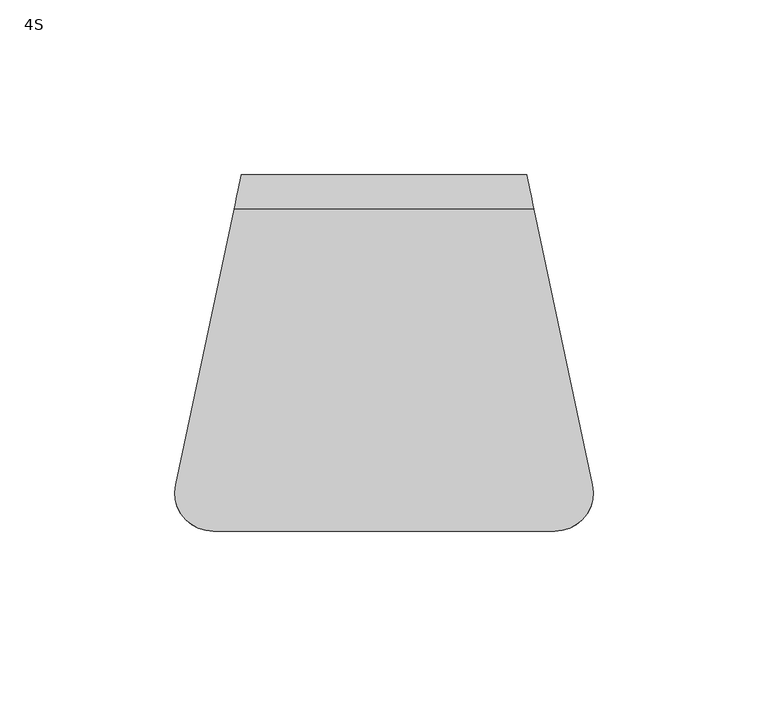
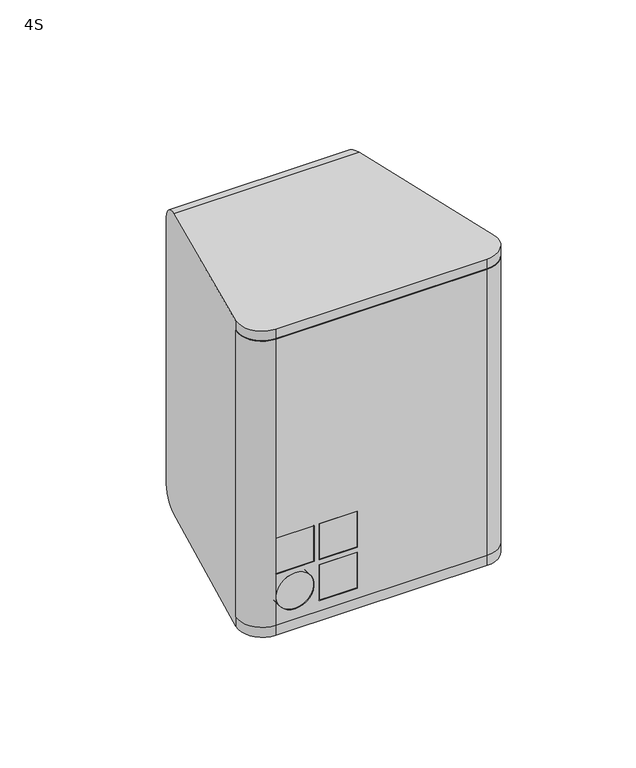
"""IFC4 building model written with IfcOpenShell, lengths in millimetres: proxy geometry, d&b xS-Series 4S Point Source : 4S."""

import ifcopenshell
import ifcopenshell.guid

model = None  # the IFC model being written
_history = None  # IfcOwnerHistory: only IFC2X3 demands one
_inside = {}  # id of a spatial element -> (the spatial element, [elements in it])
_under = {}  # id of a project, library or spatial element -> (it, [spatial elements below it])
_declared = {}  # id of a project -> (the project, [libraries it declares])
_typed = {}  # id of a type object -> (the type object, [elements of that type])
_made_of = {}  # id of a material, layer set ... -> (it, [elements and type objects made of it])


def new_model(schema):
    """Start an empty IFC model of exactly this schema.

    Asked for "IFC4X3", IfcOpenShell would pick the latest addendum, in which some entities
    have other attributes; the version numbers below select the first issue.
    IFC2X3 requires an IfcOwnerHistory on every rooted entity: one is made here for all.
    """
    global model, _history
    if schema == "IFC4X3":
        model = ifcopenshell.file(schema_version=(4, 3, 0, 0))
    else:
        model = ifcopenshell.file(schema=schema)
    _inside.clear()
    _under.clear()
    _declared.clear()
    _typed.clear()
    _made_of.clear()
    _history = None
    if model.schema == "IFC2X3":
        org = make("IfcOrganization", Name="unknown")
        user = make(
            "IfcPersonAndOrganization",
            ThePerson=make("IfcPerson", FamilyName="unknown"),
            TheOrganization=org,
        )
        app = make(
            "IfcApplication",
            ApplicationDeveloper=org,
            Version="unknown",
            ApplicationFullName="unknown",
            ApplicationIdentifier="unknown",
        )
        _history = make(
            "IfcOwnerHistory",
            OwningUser=user,
            OwningApplication=app,
            ChangeAction="ADDED",
            CreationDate=0,
        )
    return model


def make(cls, **values):
    """One entity of the class cls with the attributes given. An attribute that is None is left unset."""
    return model.create_entity(
        cls, **{name: value for name, value in values.items() if value is not None}
    )


def rooted(cls, **values):
    """An entity with a GlobalId (a new one), such as an element, a storey or a relation."""
    return make(cls, GlobalId=ifcopenshell.guid.new(), OwnerHistory=_history, **values)


def si_unit(unit_type, name, prefix=None):
    """IfcSIUnit, for example si_unit("LENGTHUNIT", "METRE", prefix="MILLI")."""
    return make("IfcSIUnit", UnitType=unit_type, Prefix=prefix, Name=name)


def assignment(units):
    """IfcUnitAssignment: the units of a project."""
    return None if units is None else make("IfcUnitAssignment", Units=units)


def point(xyz):
    """IfcCartesianPoint."""
    return None if xyz is None else make("IfcCartesianPoint", Coordinates=xyz)


def direction(xyz):
    """IfcDirection."""
    return None if xyz is None else make("IfcDirection", DirectionRatios=xyz)


def frame(location, z_axis=None, x_axis=None):
    """IfcAxis2Placement3D, a coordinate frame: its origin and axes. An axis left out is left unset."""
    return make(
        "IfcAxis2Placement3D",
        Location=point(location),
        Axis=direction(z_axis),
        RefDirection=direction(x_axis),
    )


def frame_2d(location, x_axis=None):
    """IfcAxis2Placement2D, a coordinate frame in the plane: its origin and x axis."""
    return make(
        "IfcAxis2Placement2D", Location=point(location), RefDirection=direction(x_axis)
    )


def origin():
    """The frame at (0, 0, 0) with its axes left unset."""
    return frame((0.0, 0.0, 0.0))


def place(relative_to, where):
    """IfcLocalPlacement: puts the frame where relative to a parent placement (None: the world)."""
    return make(
        "IfcLocalPlacement", PlacementRelTo=relative_to, RelativePlacement=where
    )


def context(
    kind, dimensions, precision=None, world=None, true_north=None, identifier=None
):
    """IfcGeometricRepresentationContext, for example the 3D "Model" context."""
    return make(
        "IfcGeometricRepresentationContext",
        ContextIdentifier=identifier,
        ContextType=kind,
        CoordinateSpaceDimension=dimensions,
        Precision=precision,
        WorldCoordinateSystem=world,
        TrueNorth=true_north,
    )


def project(units=None, contexts=None):
    """IfcProject with its units and contexts."""
    return rooted(
        "IfcProject",
        Name="project",
        RepresentationContexts=contexts,
        UnitsInContext=assignment(units),
    )


def spatial(cls, under=None, at=None, **own):
    """A site, building, storey or space (cls), placed at a placement, below another one or the project."""
    s = rooted(cls, ObjectPlacement=at, **own)
    if under is not None:
        _under.setdefault(under.id(), (under, []))[1].append(s)
    return s


def polyline(points):
    """IfcPolyline through the points."""
    return make("IfcPolyline", Points=[point(p) for p in points])


def circle_curve(where, radius):
    """IfcCircle in the frame where."""
    return make("IfcCircle", Position=where, Radius=radius)


def ellipse_curve(where, semi_axis1, semi_axis2):
    """IfcEllipse in the frame where."""
    return make(
        "IfcEllipse", Position=where, SemiAxis1=semi_axis1, SemiAxis2=semi_axis2
    )


def trimmed(basis, trim1, trim2, sense, master):
    """IfcTrimmedCurve: the piece of a basis curve between two trims."""
    return make(
        "IfcTrimmedCurve",
        BasisCurve=basis,
        Trim1=trim1,
        Trim2=trim2,
        SenseAgreement=sense,
        MasterRepresentation=master,
    )


def segment(curve, same_sense, transition):
    """IfcCompositeCurveSegment."""
    return make(
        "IfcCompositeCurveSegment",
        Transition=transition,
        SameSense=same_sense,
        ParentCurve=curve,
    )


def composite_curve(segments, self_intersect=None):
    """IfcCompositeCurve: segments joined end to end."""
    return make("IfcCompositeCurve", Segments=segments, SelfIntersect=self_intersect)


def outline(outer, holes=None, kind="AREA"):
    """IfcArbitraryClosedProfileDef: a profile drawn as a closed curve; with holes, ...WithVoids."""
    if holes is None:
        return make("IfcArbitraryClosedProfileDef", ProfileType=kind, OuterCurve=outer)
    return make(
        "IfcArbitraryProfileDefWithVoids",
        ProfileType=kind,
        OuterCurve=outer,
        InnerCurves=holes,
    )


def extrude(swept, where, along, depth):
    """IfcExtrudedAreaSolid: the profile swept, set in the frame where, extruded along a direction by depth."""
    return make(
        "IfcExtrudedAreaSolid",
        SweptArea=swept,
        Position=where,
        ExtrudedDirection=direction(along),
        Depth=depth,
    )


def shape(context_of_items, identifier, shape_type, items):
    """IfcShapeRepresentation: the items that make up one representation, for example the "Body"."""
    return make(
        "IfcShapeRepresentation",
        ContextOfItems=context_of_items,
        RepresentationIdentifier=identifier,
        RepresentationType=shape_type,
        Items=items,
    )


def source(mapping_origin, context_of_items, identifier, shape_type, items):
    """IfcRepresentationMap: a shape defined once, which mapped items show again and again."""
    return make(
        "IfcRepresentationMap",
        MappingOrigin=mapping_origin,
        MappedRepresentation=shape(context_of_items, identifier, shape_type, items),
    )


def transform(
    local_origin,
    x_axis=None,
    y_axis=None,
    z_axis=None,
    scale=None,
    scale2=None,
    scale3=None,
    uniform=True,
):
    """IfcCartesianTransformationOperator3D, or its non-uniform kind. x_axis, y_axis, z_axis: its Axis1, 2, 3."""
    if uniform:
        return make(
            "IfcCartesianTransformationOperator3D",
            Axis1=direction(x_axis),
            Axis2=direction(y_axis),
            LocalOrigin=point(local_origin),
            Scale=scale,
            Axis3=direction(z_axis),
        )
    return make(
        "IfcCartesianTransformationOperator3DnonUniform",
        Axis1=direction(x_axis),
        Axis2=direction(y_axis),
        LocalOrigin=point(local_origin),
        Scale=scale,
        Axis3=direction(z_axis),
        Scale2=scale2,
        Scale3=scale3,
    )


def mapped(mapping_source, mapping_target):
    """IfcMappedItem: shows the shape of a source again, moved by a transform."""
    return make(
        "IfcMappedItem", MappingSource=mapping_source, MappingTarget=mapping_target
    )


def made_of(thing, what):
    """Note that an element or type object is made of a material, layer set ...; save() writes the relation."""
    if what is not None:
        _made_of.setdefault(what.id(), (what, []))[1].append(thing)
    return thing


def element(
    cls,
    number,
    at=None,
    inside=None,
    cuts=None,
    type_object=None,
    material=None,
    context=None,
    identifier="Body",
    shape_type=None,
    held_by="IfcProductDefinitionShape",
    body=None,
    shapes=None,
    **own,
):
    """One element of the class cls, such as IfcWall. Its Tag is "e" and its number.

    at: its placement. inside: the storey or other place that contains it. cuts: it is an
    opening in that element (IfcRelVoidsElement). A single representation is given by context,
    identifier, shape_type and body (its items); several are given by shapes. held_by: the class
    of the entity that holds the representations. save() writes the other relations.
    """
    e = rooted(cls, Tag="e%d" % number, ObjectPlacement=at, **own)
    if body is not None:
        shapes = [shape(context, identifier, shape_type, body)]
    if shapes is not None:
        e.Representation = make(held_by, Representations=shapes)
    if inside is not None:
        _inside.setdefault(inside.id(), (inside, []))[1].append(e)
    if cuts is not None:
        rooted(
            "IfcRelVoidsElement", RelatingBuildingElement=cuts, RelatedOpeningElement=e
        )
    if type_object is not None:
        _typed.setdefault(type_object.id(), (type_object, []))[1].append(e)
    return made_of(e, material)


def aggregate(whole, parts):
    """IfcRelAggregates: a whole, such as a stair, and the parts it consists of."""
    return rooted("IfcRelAggregates", RelatingObject=whole, RelatedObjects=parts)


def save(model, path):
    """Write the relations noted so far, then the file.

    IfcRelAggregates (storeys below a building ...), IfcRelContainedInSpatialStructure (elements
    in a storey), IfcRelDefinesByType, IfcRelAssociatesMaterial and IfcRelDeclares: one each for
    every whole, place, type object, material and project.
    """
    for whole, parts in _under.values():
        aggregate(whole, parts)
    for where, things in _inside.values():
        rooted(
            "IfcRelContainedInSpatialStructure",
            RelatedElements=things,
            RelatingStructure=where,
        )
    for kind, things in _typed.values():
        rooted("IfcRelDefinesByType", RelatedObjects=things, RelatingType=kind)
    for what, things in _made_of.values():
        rooted("IfcRelAssociatesMaterial", RelatedObjects=things, RelatingMaterial=what)
    for by, libraries in _declared.values():
        rooted("IfcRelDeclares", RelatingContext=by, RelatedDefinitions=libraries)
    model.write(path)


def plane_surface(at):
    """IfcPlane: the flat surface through the origin of the frame at, square to its z axis."""
    return make("IfcPlane", Position=at)


def cylinder_surface(at, radius):
    """IfcCylindricalSurface: all points at the distance radius from the z axis of the frame at."""
    return make("IfcCylindricalSurface", Position=at, Radius=radius)


def revolved_surface(curve, axis_point, axis_direction):
    """IfcSurfaceOfRevolution: the curve turned about the line through axis_point along axis_direction."""
    return make(
        "IfcSurfaceOfRevolution",
        SweptCurve=make("IfcArbitraryOpenProfileDef", ProfileType="CURVE", Curve=curve),
        AxisPosition=make("IfcAxis1Placement", Location=point(axis_point), Axis=direction(axis_direction)),
    )


def advanced_brep(points, edges, surfaces, faces):
    """IfcAdvancedBrep: a solid bounded by faces that lie on surfaces and meet in shared edges.

    An edge is (start, end): straight between two places in points (the first is 0);
    or (start, end, curve); or (start, end, curve, False) where it runs against its curve.
    A face is (place in surfaces, loops), or (place, loops, False) where it looks against
    its surface's normal. A loop lists edges by number (the first is 1), with a minus sign
    where the edge is run from its end to its start. The first loop is the outer one.
    """
    corners = [point(p) for p in points]
    vertices = [make("IfcVertexPoint", VertexGeometry=c) for c in corners]
    made = []
    for start, end, *more in edges:
        made.append(
            make(
                "IfcEdgeCurve",
                EdgeStart=vertices[start],
                EdgeEnd=vertices[end],
                EdgeGeometry=more[0] if more else make("IfcPolyline", Points=[corners[start], corners[end]]),
                SameSense=more[1] if len(more) > 1 else True,
            )
        )
    hull = []
    for where, loops, *sense in faces:
        bounds = []
        for j, loop in enumerate(loops):
            ring = [make("IfcOrientedEdge", EdgeElement=made[abs(k) - 1], Orientation=k > 0) for k in loop]
            bounds.append(
                make(
                    "IfcFaceOuterBound" if j == 0 else "IfcFaceBound",
                    Bound=make("IfcEdgeLoop", EdgeList=ring),
                    Orientation=True,
                )
            )
        hull.append(make("IfcAdvancedFace", Bounds=bounds, FaceSurface=surfaces[where], SameSense=sense[0] if sense else True))
    return make("IfcAdvancedBrep", Outer=make("IfcClosedShell", CfsFaces=hull))


def proxy_4s_3c42d015(model_context):
    return source(origin(), model_context, "Body", "SolidModel", [
        extrude(outline(composite_curve([segment(polyline([(-54.4631575, -37.7129714), (54.4631575, -37.7129714)]), True, "CONTINUOUS"), segment(trimmed(circle_curve(frame_2d((48.9161313, -40.0)), 6.0), [point((54.4631575, -37.7129714))], [point((48.9161313, -46.0))], False, "CARTESIAN"), True, "CONTINUOUS"), segment(polyline([(48.9161313, -46.0), (-48.9161313, -46.0)]), True, "CONTINUOUS"), segment(trimmed(circle_curve(frame_2d((-48.9161313, -40.0)), 6.0), [point((-48.9161313, -46.0))], [point((-54.4631575, -37.7129714))], False, "CARTESIAN"), True, "CONTINUOUS")], self_intersect=False)), frame((0.0, 0.0, -70.0), z_axis=(0.0, 0.0, 1.0), x_axis=(1.0, 0.0, 0.0)), (0.0, 0.0, 1.0), 140.0),
        advanced_brep(
        [(-31.1772445, -51.0, -27.5), (-31.1772445, -46.0, -27.5), (-31.1772445, -46.0, -45.0), (-31.1772445, -51.0, -45.0), (-48.6772445, -46.0, -45.0), (-48.6772445, -51.0, -45.0), (-48.6772445, -46.0, -27.5), (-48.6772445, -51.0, -27.5), (-11.1772445, -51.0, -27.5), (-11.1772445, -46.0, -27.5), (-11.1772445, -46.0, -45.0), (-11.1772445, -51.0, -45.0), (-28.6772445, -46.0, -45.0), (-28.6772445, -51.0, -45.0), (-28.6772445, -46.0, -27.5), (-28.6772445, -51.0, -27.5), (-11.1772445, -51.0, -47.5), (-11.1772445, -46.0, -47.5), (-11.1772445, -46.0, -65.0), (-11.1772445, -51.0, -65.0), (-28.6772445, -46.0, -65.0), (-28.6772445, -51.0, -65.0), (-28.6772445, -46.0, -47.5), (-28.6772445, -51.0, -47.5), (-39.9272445, -51.0, -65.0), (-39.9272445, -46.0, -65.0), (-39.9272445, -46.0, -47.5), (-39.9272445, -51.0, -47.5), (48.9161313, -51.0, 70.0), (59.6757549, -37.7129714, 70.0), (54.4631575, -37.7129714, 70.0), (48.9161313, -46.0, 70.0), (-48.9161313, -46.0, 70.0), (-54.4631575, -37.7129714, 70.0), (-59.6757549, -37.7129714, 70.0), (-48.9161313, -51.0, 70.0), (48.9161313, -51.0, -70.0), (-48.9161313, -51.0, -70.0), (-59.6757549, -37.7129714, -70.0), (-54.4631575, -37.7129714, -70.0), (-48.9161313, -46.0, -70.0), (48.9161313, -46.0, -70.0), (54.4631575, -37.7129714, -70.0), (59.6757549, -37.7129714, -70.0)],
        [
            (0, 1),
            (1, 2),
            (2, 3),
            (3, 0),
            (2, 4),
            (4, 5),
            (5, 3),
            (4, 6),
            (6, 7),
            (7, 5),
            (0, 7),
            (6, 1),
            (8, 9),
            (9, 10),
            (10, 11),
            (11, 8),
            (10, 12),
            (12, 13),
            (13, 11),
            (12, 14),
            (14, 15),
            (15, 13),
            (8, 15),
            (14, 9),
            (16, 17),
            (17, 18),
            (18, 19),
            (19, 16),
            (18, 20),
            (20, 21),
            (21, 19),
            (20, 22),
            (22, 23),
            (23, 21),
            (16, 23),
            (22, 17),
            (24, 25),
            (25, 26, circle_curve(frame((-39.9272445, -46.0, -56.25), z_axis=(0.0, 1.0, 0.0), x_axis=(0.0, 0.0, 1.0)), 8.75)),
            (26, 27),
            (27, 24, circle_curve(frame((-39.9272445, -51.0, -56.25), z_axis=(0.0, -1.0, 0.0), x_axis=(0.0, 0.0, 1.0)), 8.75)),
            (24, 27, circle_curve(frame((-39.9272445, -51.0, -56.25), z_axis=(0.0, -1.0, 0.0), x_axis=(0.0, 0.0, 1.0)), 8.75)),
            (26, 25, circle_curve(frame((-39.9272445, -46.0, -56.25), z_axis=(0.0, 1.0, 0.0), x_axis=(0.0, 0.0, 1.0)), 8.75)),
            (28, 29, circle_curve(frame((48.9161313, -40.0, 70.0), z_axis=(0.0, 0.0, 1.0), x_axis=(0.0, -1.0, 0.0)), 11.0)),
            (29, 30),
            (30, 31, circle_curve(frame((48.9161313, -40.0, 70.0), z_axis=(0.0, 0.0, -1.0), x_axis=(0.0, -1.0, 0.0)), 6.0)),
            (31, 32),
            (32, 33, circle_curve(frame((-48.9161313, -40.0, 70.0), z_axis=(0.0, 0.0, -1.0), x_axis=(0.0, -1.0, 0.0)), 6.0)),
            (33, 34),
            (34, 35, circle_curve(frame((-48.9161313, -40.0, 70.0), z_axis=(0.0, 0.0, 1.0), x_axis=(0.0, -1.0, 0.0)), 11.0)),
            (35, 28),
            (36, 37),
            (37, 38, circle_curve(frame((-48.9161313, -40.0, -70.0), z_axis=(0.0, 0.0, -1.0), x_axis=(0.0, -1.0, 0.0)), 11.0)),
            (38, 39),
            (39, 40, circle_curve(frame((-48.9161313, -40.0, -70.0), z_axis=(0.0, 0.0, 1.0), x_axis=(0.0, -1.0, 0.0)), 6.0)),
            (40, 41),
            (41, 42, circle_curve(frame((48.9161313, -40.0, -70.0), z_axis=(0.0, 0.0, 1.0), x_axis=(0.0, -1.0, 0.0)), 6.0)),
            (42, 43),
            (43, 36, circle_curve(frame((48.9161313, -40.0, -70.0), z_axis=(0.0, 0.0, -1.0), x_axis=(0.0, -1.0, 0.0)), 11.0)),
            (28, 36),
            (43, 29),
            (42, 30),
            (41, 31),
            (40, 32),
            (39, 33),
            (38, 34),
            (37, 35),
        ],
        [
            plane_surface(frame((-31.1772445, -51.0, -45.0), z_axis=(-1.0, 0.0, 0.0), x_axis=(0.0, 1.0, 0.0))),
            plane_surface(frame((-48.6772445, -51.0, -45.0), z_axis=(0.0, 0.0, 1.0), x_axis=(0.0, 1.0, 0.0))),
            plane_surface(frame((-48.6772445, -51.0, -27.5), z_axis=(1.0, 0.0, 0.0), x_axis=(0.0, 1.0, 0.0))),
            plane_surface(frame((-31.1772445, -51.0, -27.5), z_axis=(0.0, 0.0, -1.0), x_axis=(0.0, 1.0, 0.0))),
            plane_surface(frame((-11.1772445, -51.0, -45.0), z_axis=(-1.0, 0.0, 0.0), x_axis=(0.0, 1.0, 0.0))),
            plane_surface(frame((-28.6772445, -51.0, -45.0), z_axis=(0.0, 0.0, 1.0), x_axis=(0.0, 1.0, 0.0))),
            plane_surface(frame((-28.6772445, -51.0, -27.5), z_axis=(1.0, 0.0, 0.0), x_axis=(0.0, 1.0, 0.0))),
            plane_surface(frame((-11.1772445, -51.0, -27.5), z_axis=(0.0, 0.0, -1.0), x_axis=(0.0, 1.0, 0.0))),
            plane_surface(frame((-11.1772445, -51.0, -65.0), z_axis=(-1.0, 0.0, 0.0), x_axis=(0.0, 1.0, 0.0))),
            plane_surface(frame((-28.6772445, -51.0, -65.0), z_axis=(0.0, 0.0, 1.0), x_axis=(0.0, 1.0, 0.0))),
            plane_surface(frame((-28.6772445, -51.0, -47.5), z_axis=(1.0, 0.0, 0.0), x_axis=(0.0, 1.0, 0.0))),
            plane_surface(frame((-11.1772445, -51.0, -47.5), z_axis=(0.0, 0.0, -1.0), x_axis=(0.0, 1.0, 0.0))),
            revolved_surface(polyline([(-39.9272445, -51.0, -47.5), (-39.9272445, -46.0, -47.5)]), (-39.9272445, -142.2477083, -56.25), (0.0, -1.0, 0.0)),
            plane_surface(frame((48.9161313, -51.0, 70.0), z_axis=(0.0, 0.0, 1.0), x_axis=(1.0, 0.0, 0.0))),
            plane_surface(frame((48.9161313, -51.0, -70.0), z_axis=(0.0, 0.0, -1.0), x_axis=(-1.0, 0.0, 0.0))),
            cylinder_surface(frame((48.9161313, -40.0, -70.0), z_axis=(0.0, 0.0, 1.0), x_axis=(0.0, -1.0, 0.0)), 11.0),
            plane_surface(frame((59.6757549, -37.7129714, 70.0), z_axis=(0.0, 1.0, 0.0), x_axis=(0.0, 0.0, -1.0))),
            revolved_surface(polyline([(48.9161313, -46.0, -70.0), (48.9161313, -46.0, 70.0)]), (48.9161313, -40.0, -70.0), (0.0, 0.0, -1.0)),
            plane_surface(frame((48.9161313, -46.0, 70.0), z_axis=(0.0, 1.0, 0.0), x_axis=(0.0, 0.0, -1.0))),
            revolved_surface(polyline([(-48.9161313, -46.0, -70.0), (-48.9161313, -46.0, 70.0)]), (-48.9161313, -40.0, -70.0), (0.0, 0.0, -1.0)),
            plane_surface(frame((-54.4631575, -37.7129714, 70.0), z_axis=(0.0, 1.0, 0.0), x_axis=(0.0, 0.0, -1.0))),
            cylinder_surface(frame((-48.9161313, -40.0, -70.0), z_axis=(0.0, 0.0, 1.0), x_axis=(0.0, -1.0, 0.0)), 11.0),
            plane_surface(frame((-48.9161313, -51.0, 70.0), z_axis=(0.0, -1.0, 0.0), x_axis=(0.0, 0.0, -1.0))),
        ],
        [
            (0, [[1, 2, 3, 4]]),
            (1, [[-3, 5, 6, 7]]),
            (2, [[-6, 8, 9, 10]]),
            (3, [[-1, 11, -9, 12]]),
            (4, [[13, 14, 15, 16]]),
            (5, [[-15, 17, 18, 19]]),
            (6, [[-18, 20, 21, 22]]),
            (7, [[-13, 23, -21, 24]]),
            (8, [[25, 26, 27, 28]]),
            (9, [[-27, 29, 30, 31]]),
            (10, [[-30, 32, 33, 34]]),
            (11, [[-25, 35, -33, 36]]),
            (12, [[37, 38, 39, 40]]),
            (12, [[-37, 41, -39, 42]]),
            (13, [[43, 44, 45, 46, 47, 48, 49, 50]]),
            (14, [[51, 52, 53, 54, 55, 56, 57, 58]]),
            (15, [[-43, 59, -58, 60]]),
            (16, [[-44, -60, -57, 61]]),
            (17, [[-45, -61, -56, 62]]),
            (18, [[-46, -62, -55, 63], [-2, -12, -8, -5], [-14, -24, -20, -17], [-26, -36, -32, -29], [-38, -42]]),
            (19, [[-47, -63, -54, 64]]),
            (20, [[-48, -64, -53, 65]]),
            (21, [[-49, -65, -52, 66]]),
            (22, [[-50, -66, -51, -59], [-4, -7, -10, -11], [-16, -19, -22, -23], [-28, -31, -34, -35], [-40, -41]]),
        ],
    ),
        extrude(outline(polyline([(-31.1622558, -51.0), (-48.6622558, -51.0), (-48.6622558, -46.0), (-31.1622558, -46.0), (-31.1622558, -51.0)])), frame((0.0, 0.0, -45.0), z_axis=(0.0, 0.0, 1.0), x_axis=(1.0, 0.0, 0.0)), (0.0, 0.0, 1.0), 17.5),
        extrude(outline(polyline([(-11.1622558, -51.0), (-28.6622558, -51.0), (-28.6622558, -46.0), (-11.1622558, -46.0), (-11.1622558, -51.0)])), frame((0.0, 0.0, -45.0), z_axis=(0.0, 0.0, 1.0), x_axis=(1.0, 0.0, 0.0)), (0.0, 0.0, 1.0), 17.5),
        extrude(outline(polyline([(-11.1622558, -51.0), (-28.6622558, -51.0), (-28.6622558, -46.0), (-11.1622558, -46.0), (-11.1622558, -51.0)])), frame((0.0, 0.0, -65.0), z_axis=(0.0, 0.0, 1.0), x_axis=(1.0, 0.0, 0.0)), (0.0, 0.0, 1.0), 17.5),
        extrude(outline(composite_curve([segment(trimmed(circle_curve(frame_2d((-56.25, -39.9122558)), 8.75), [point((-65.0, -39.9122558))], [point((-47.5, -39.9122558))], False, "CARTESIAN"), True, "CONTINUOUS"), segment(trimmed(circle_curve(frame_2d((-56.25, -39.9122558)), 8.75), [point((-47.5, -39.9122558))], [point((-65.0, -39.9122558))], False, "CARTESIAN"), True, "CONTINUOUS")], self_intersect=False)), frame((0.0, -51.0, 0.0), z_axis=(0.0, 1.0, 0.0), x_axis=(0.0, 0.0, 1.0)), (0.0, 0.0, 1.0), 5.0),
        advanced_brep(
        [(-23.0610927, 48.0, 57.4298657), (-18.0610927, 48.0, 62.4298657), (18.0610927, 48.0, 62.4298657), (23.0610927, 48.0, 57.4298657), (23.0610927, 48.0, -29.0610927), (18.0610927, 48.0, -34.0610927), (-18.0610927, 48.0, -34.0610927), (-23.0610927, 48.0, -29.0610927), (-16.4913486, 48.0, -32.4913486), (16.4913486, 48.0, -32.4913486), (21.4913486, 48.0, -27.4913486), (21.4913486, 48.0, -0.0804502), (-21.4913486, 48.0, -0.0804502), (-21.4913486, 48.0, -27.4913486), (-23.0610927, 51.0, 57.4298657), (-18.0610927, 51.0, 62.4298657), (18.0610927, 51.0, 62.4298657), (23.0610927, 51.0, 57.4298657), (23.0610927, 51.0, -29.0610927), (18.0610927, 51.0, -34.0610927), (-18.0610927, 51.0, -34.0610927), (-23.0610927, 51.0, -29.0610927), (16.4913486, 32.0, -32.4913486), (-16.4913486, 32.0, -32.4913486), (-21.4913486, 32.0, -27.4913486), (-21.4913486, 32.0, -0.0804502), (21.4913486, 32.0, -0.0804502), (21.4913486, 32.0, -27.4913486), (48.9161313, -51.0, 70.0), (-48.9161313, -51.0, 70.0), (-59.6757549, -37.7129714, 70.0), (59.6757549, -37.7129714, 70.0), (48.9161313, -51.0, -70.0), (59.6757549, -37.7129714, -70.0), (-59.6757549, -37.7129714, -70.0), (-48.9161313, -51.0, -70.0), (59.6757549, -37.7129714, -74.7177462), (42.9086571, 41.1700217, -73.3763698), (40.8192307, 51.0, -63.3778153), (40.8192307, 51.0, 63.3841074), (42.9086571, 41.1700217, 73.3826619), (59.6757549, -37.7129714, 74.7240383), (-42.9086571, 41.1700217, -73.3763698), (-59.6757549, -37.7129714, -74.7177462), (-59.6757549, -37.7129714, 74.7240383), (-42.9086571, 41.1700217, 73.3826619), (-40.8192307, 51.0, 63.3841074), (-40.8192307, 51.0, -63.3778153), (48.9161313, -51.0, 74.9499793), (-48.9161313, -51.0, 74.9499793), (48.9161313, -51.0, -74.9436872), (-48.9161313, -51.0, -74.9436872)],
        [
            (0, 1, circle_curve(frame((-18.0610927, 48.0, 57.4298657), z_axis=(0.0, 1.0, 0.0), x_axis=(-1.0, 0.0, 0.0)), 5.0)),
            (1, 2),
            (2, 3, circle_curve(frame((18.0610927, 48.0, 57.4298657), z_axis=(0.0, 1.0, 0.0), x_axis=(-1.0, 0.0, 0.0)), 5.0)),
            (3, 4),
            (4, 5, circle_curve(frame((18.0610927, 48.0, -29.0610927), z_axis=(0.0, 1.0, 0.0), x_axis=(-1.0, 0.0, 0.0)), 5.0)),
            (5, 6),
            (6, 7, circle_curve(frame((-18.0610927, 48.0, -29.0610927), z_axis=(0.0, 1.0, 0.0), x_axis=(-1.0, 0.0, 0.0)), 5.0)),
            (7, 0),
            (8, 9),
            (9, 10, circle_curve(frame((16.4913486, 48.0, -27.4913486), z_axis=(0.0, -1.0, 0.0), x_axis=(-1.0, 0.0, 0.0)), 5.0)),
            (10, 11),
            (11, 12),
            (12, 13),
            (13, 8, circle_curve(frame((-16.4913486, 48.0, -27.4913486), z_axis=(0.0, -1.0, 0.0), x_axis=(-1.0, 0.0, 0.0)), 5.0)),
            (0, 14),
            (14, 15, circle_curve(frame((-18.0610927, 51.0, 57.4298657), z_axis=(0.0, 1.0, 0.0), x_axis=(-1.0, 0.0, 0.0)), 5.0)),
            (15, 1),
            (15, 16),
            (16, 2),
            (16, 17, circle_curve(frame((18.0610927, 51.0, 57.4298657), z_axis=(0.0, 1.0, 0.0), x_axis=(-1.0, 0.0, 0.0)), 5.0)),
            (17, 3),
            (17, 18),
            (18, 4),
            (18, 19, circle_curve(frame((18.0610927, 51.0, -29.0610927), z_axis=(0.0, 1.0, 0.0), x_axis=(-1.0, 0.0, 0.0)), 5.0)),
            (19, 5),
            (19, 20),
            (20, 6),
            (20, 21, circle_curve(frame((-18.0610927, 51.0, -29.0610927), z_axis=(0.0, 1.0, 0.0), x_axis=(-1.0, 0.0, 0.0)), 5.0)),
            (21, 7),
            (21, 14),
            (22, 23),
            (23, 24, circle_curve(frame((-16.4913486, 32.0, -27.4913486), z_axis=(0.0, 1.0, 0.0), x_axis=(-1.0, 0.0, 0.0)), 5.0)),
            (24, 25),
            (25, 26),
            (26, 27),
            (27, 22, circle_curve(frame((16.4913486, 32.0, -27.4913486), z_axis=(0.0, 1.0, 0.0), x_axis=(-1.0, 0.0, 0.0)), 5.0)),
            (28, 29),
            (29, 30, circle_curve(frame((-48.9161313, -40.0, 70.0), z_axis=(0.0, 0.0, -1.0), x_axis=(0.0, -1.0, 0.0)), 11.0)),
            (30, 31),
            (31, 28, circle_curve(frame((48.9161313, -40.0, 70.0), z_axis=(0.0, 0.0, -1.0), x_axis=(0.0, -1.0, 0.0)), 11.0)),
            (32, 33, circle_curve(frame((48.9161313, -40.0, -70.0), z_axis=(0.0, 0.0, 1.0), x_axis=(0.0, -1.0, 0.0)), 11.0)),
            (33, 34),
            (34, 35, circle_curve(frame((-48.9161313, -40.0, -70.0), z_axis=(0.0, 0.0, 1.0), x_axis=(0.0, -1.0, 0.0)), 11.0)),
            (35, 32),
            (22, 9),
            (8, 23),
            (13, 24),
            (12, 25),
            (11, 26),
            (10, 27),
            (36, 37),
            (37, 38, ellipse_curve(frame((42.9447963, 41.0, -63.3778153), z_axis=(0.9781476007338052, 0.20791169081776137, 0.0), x_axis=(-0.2079116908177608, 0.9781476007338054, 0.0)), 10.2234059, 10.0)),
            (38, 39),
            (39, 40, ellipse_curve(frame((42.9447963, 41.0, 63.3841074), z_axis=(0.9781476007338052, 0.20791169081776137, 0.0), x_axis=(-0.2079116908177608, 0.9781476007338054, 0.0)), 10.2234059, 10.0)),
            (40, 41),
            (41, 31),
            (31, 33),
            (33, 36),
            (30, 34),
            (42, 43),
            (43, 34),
            (30, 44),
            (44, 45),
            (45, 46, ellipse_curve(frame((-42.9447963, 41.0, 63.3841074), z_axis=(-0.9781476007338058, 0.20791169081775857, 0.0), x_axis=(-0.20791169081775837, -0.9781476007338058, 0.0)), 10.2234059, 10.0)),
            (46, 47),
            (47, 42, ellipse_curve(frame((-42.9447963, 41.0, -63.3778153), z_axis=(-0.9781476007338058, 0.20791169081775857, 0.0), x_axis=(-0.20791169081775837, -0.9781476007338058, 0.0)), 10.2234059, 10.0)),
            (38, 47),
            (46, 39),
            (41, 48, ellipse_curve(frame((48.9161313, -40.0, 74.7629284), z_axis=(0.0, -0.017002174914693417, -0.9998554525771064), x_axis=(0.0, -0.9998554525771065, 0.017002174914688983)), 11.0015903, 11.0)),
            (48, 28),
            (29, 49),
            (49, 44, ellipse_curve(frame((-48.9161313, -40.0, 74.7629284), z_axis=(0.0, -0.017002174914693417, -0.9998554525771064), x_axis=(0.0, -0.9998554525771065, 0.017002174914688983)), 11.0015903, 11.0)),
            (48, 49),
            (32, 50),
            (50, 36, ellipse_curve(frame((48.9161313, -40.0, -74.7566362), z_axis=(0.0, -0.017002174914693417, 0.9998554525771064), x_axis=(0.0, 0.9998554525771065, 0.017002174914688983)), 11.0015903, 11.0)),
            (43, 51, ellipse_curve(frame((-48.9161313, -40.0, -74.7566362), z_axis=(0.0, -0.017002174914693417, 0.9998554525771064), x_axis=(0.0, 0.9998554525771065, 0.017002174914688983)), 11.0015903, 11.0)),
            (51, 35),
            (51, 50),
            (40, 45),
            (42, 37),
        ],
        [
            plane_surface(frame((-23.0610927, 48.0, 57.4298657), z_axis=(0.0, 1.0, 0.0), x_axis=(0.0, 0.0, -1.0))),
            revolved_surface(polyline([(-23.0610927, 51.0, 57.4298657), (-23.0610927, 48.0, 57.4298657)]), (-18.0610927, 48.0, 57.4298657), (0.0, 1.0, 0.0)),
            plane_surface(frame((-18.0610927, 51.0, 62.4298657), z_axis=(0.0, 0.0, -1.0), x_axis=(0.0, -1.0, 0.0))),
            revolved_surface(polyline([(13.0610927, 51.0, 57.4298657), (13.0610927, 48.0, 57.4298657)]), (18.0610927, 48.0, 57.4298657), (0.0, 1.0, 0.0)),
            plane_surface(frame((23.0610927, 51.0, 57.4298657), z_axis=(-1.0, 0.0, 0.0), x_axis=(0.0, -1.0, 0.0))),
            revolved_surface(polyline([(13.0610927, 51.0, -29.0610927), (13.0610927, 48.0, -29.0610927)]), (18.0610927, 48.0, -29.0610927), (0.0, 1.0, 0.0)),
            plane_surface(frame((18.0610927, 51.0, -34.0610927), z_axis=(0.0, 0.0, 1.0), x_axis=(0.0, -1.0, 0.0))),
            revolved_surface(polyline([(-23.0610927, 51.0, -29.0610927), (-23.0610927, 48.0, -29.0610927)]), (-18.0610927, 48.0, -29.0610927), (0.0, 1.0, 0.0)),
            plane_surface(frame((-23.0610927, 51.0, -29.0610927), z_axis=(1.0, 0.0, 0.0), x_axis=(0.0, -1.0, 0.0))),
            plane_surface(frame((-10.0, 32.0, -32.4913486), z_axis=(0.0, 1.0, 0.0), x_axis=(1.0, 0.0, 0.0))),
            plane_surface(frame((48.9161313, -51.0, 70.0), z_axis=(0.0, 0.0, -1.0), x_axis=(-1.0, 0.0, 0.0))),
            plane_surface(frame((48.9161313, -51.0, -70.0), z_axis=(0.0, 0.0, 1.0), x_axis=(1.0, 0.0, 0.0))),
            plane_surface(frame((16.4913486, 51.0, -32.4913486), z_axis=(0.0, 0.0, 1.0), x_axis=(0.0, -1.0, 0.0))),
            revolved_surface(polyline([(-21.4913486, 48.0, -27.4913486), (-21.4913486, 32.0, -27.4913486)]), (-16.4913486, 32.0, -27.4913486), (0.0, 1.0, 0.0)),
            plane_surface(frame((-21.4913486, 51.0, -27.4913486), z_axis=(1.0, 0.0, 0.0), x_axis=(0.0, -1.0, 0.0))),
            plane_surface(frame((-21.4913486, 51.0, -0.0804502), z_axis=(0.0, 0.0, -1.0), x_axis=(0.0, -1.0, 0.0))),
            plane_surface(frame((21.4913486, 51.0, -0.0804502), z_axis=(-1.0, 0.0, 0.0), x_axis=(0.0, -1.0, 0.0))),
            revolved_surface(polyline([(11.491348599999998, 48.0, -27.4913486), (11.491348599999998, 32.0, -27.4913486)]), (16.4913486, 32.0, -27.4913486), (0.0, 1.0, 0.0)),
            plane_surface(frame((40.8192307, 51.0, -74.9436872), z_axis=(0.9781476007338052, 0.20791169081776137, 0.0), x_axis=(0.0, 0.0, 1.0))),
            plane_surface(frame((59.6757549, -37.7129714, -74.9436872), z_axis=(0.0, -1.0, 0.0), x_axis=(0.0, 0.0, 1.0))),
            plane_surface(frame((-59.6757549, -37.7129714, -74.9436872), z_axis=(-0.9781476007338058, 0.20791169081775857, 0.0), x_axis=(0.0, 0.0, 1.0))),
            plane_surface(frame((-40.8192307, 51.0, -74.9436872), z_axis=(0.0, 1.0, 0.0), x_axis=(0.0, 0.0, 1.0))),
            cylinder_surface(frame((48.9161313, -40.0, 70.0), z_axis=(0.0, 0.0, 1.0), x_axis=(0.0, -1.0, 0.0)), 11.0),
            cylinder_surface(frame((-48.9161313, -40.0, 70.0), z_axis=(0.0, 0.0, 1.0), x_axis=(0.0, -1.0, 0.0)), 11.0),
            plane_surface(frame((-48.9161313, -51.0, 74.9499793), z_axis=(0.0, -1.0, 0.0), x_axis=(0.0, 0.0, -1.0))),
            cylinder_surface(frame((48.9161313, -40.0, -74.9436872), z_axis=(0.0, 0.0, 1.0), x_axis=(0.0, -1.0, 0.0)), 11.0),
            cylinder_surface(frame((-48.9161313, -40.0, -74.9436872), z_axis=(0.0, 0.0, 1.0), x_axis=(0.0, -1.0, 0.0)), 11.0),
            plane_surface(frame((-48.9161313, -51.0, -70.0), z_axis=(0.0, -1.0, 0.0), x_axis=(0.0, 0.0, -1.0))),
            plane_surface(frame((65.0, -57.2109369, 75.055594), z_axis=(0.0, 0.017002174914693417, 0.9998554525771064), x_axis=(-1.0, 0.0, 0.0))),
            cylinder_surface(frame((-65.0, 41.0, 63.3841074), z_axis=(-1.0, 0.0, 0.0), x_axis=(0.0, 1.0, 0.0)), 10.0),
            plane_surface(frame((65.0, 41.1700217, -73.3763698), z_axis=(0.0, 0.017002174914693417, -0.9998554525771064), x_axis=(-1.0, 0.0, 0.0))),
            cylinder_surface(frame((-65.0, 41.0, -63.3778153), z_axis=(-1.0, 0.0, 0.0), x_axis=(0.0, 1.0, 0.0)), 10.0),
        ],
        [
            (0, [[1, 2, 3, 4, 5, 6, 7, 8], [9, 10, 11, 12, 13, 14]]),
            (1, [[-1, 15, 16, 17]]),
            (2, [[-2, -17, 18, 19]]),
            (3, [[-3, -19, 20, 21]]),
            (4, [[-4, -21, 22, 23]]),
            (5, [[-5, -23, 24, 25]]),
            (6, [[-6, -25, 26, 27]]),
            (7, [[-7, -27, 28, 29]]),
            (8, [[-8, -29, 30, -15]]),
            (9, [[31, 32, 33, 34, 35, 36]]),
            (10, [[37, 38, 39, 40]]),
            (11, [[41, 42, 43, 44]]),
            (12, [[-31, 45, -9, 46]]),
            (13, [[-32, -46, -14, 47]]),
            (14, [[-33, -47, -13, 48]]),
            (15, [[-34, -48, -12, 49]]),
            (16, [[-35, -49, -11, 50]]),
            (17, [[-36, -50, -10, -45]]),
            (18, [[51, 52, 53, 54, 55, 56, 57, 58]]),
            (19, [[-39, 59, -42, -57]]),
            (20, [[60, 61, -59, 62, 63, 64, 65, 66]]),
            (21, [[67, -65, 68, -53], [-16, -30, -28, -26, -24, -22, -20, -18]]),
            (22, [[-40, -56, 69, 70]]),
            (23, [[-38, 71, 72, -62]]),
            (24, [[-37, -70, 73, -71]]),
            (25, [[-41, 74, 75, -58]]),
            (26, [[-43, -61, 76, 77]]),
            (27, [[-44, -77, 78, -74]]),
            (28, [[79, -63, -72, -73, -69, -55]]),
            (29, [[-79, -54, -68, -64]]),
            (30, [[80, -51, -75, -78, -76, -60]]),
            (31, [[-80, -66, -67, -52]]),
        ],
    ),
    ])


if __name__ == "__main__":
    model = new_model("IFC4")
    model_context = context("Model", 3, world=origin())
    ifc_project = project(units=[si_unit("LENGTHUNIT", "METRE", prefix="MILLI")], contexts=[model_context])
    site = spatial("IfcSite", under=ifc_project)
    building = spatial("IfcBuilding", under=site)
    placement = place(None, origin())
    proxy_4s_shape = proxy_4s_3c42d015(model_context)
    element("IfcBuildingElementProxy", 1, Name="d&b xS-Series 4S Point Source : 4S", ObjectType="d&b xS-Series 4S Point Source : 4S", at=placement, inside=building, context=model_context, shape_type="MappedRepresentation", body=[
        mapped(proxy_4s_shape, transform((0.0, 0.0, 0.0), x_axis=(1.0, 0.0, 0.0), y_axis=(0.0, 1.0, 0.0), z_axis=(0.0, 0.0, 1.0))),
    ])
    save(model, "model.ifc")
